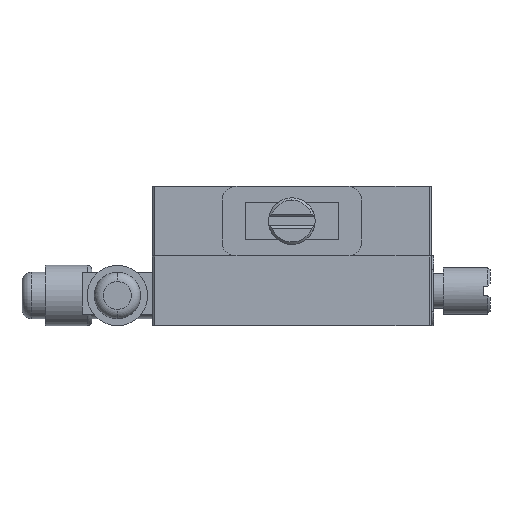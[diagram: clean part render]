
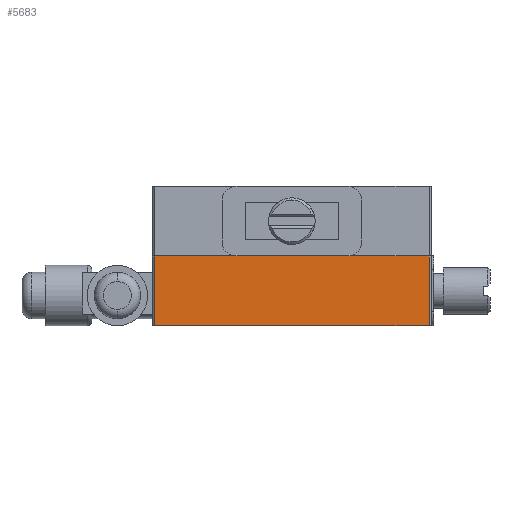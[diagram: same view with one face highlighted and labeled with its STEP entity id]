
A CAD part, front view. The second image highlights one B-rep face of the part: STEP entity #5683.
In plain terms, the highlighted planar face has unit normal (0, -1, 0).
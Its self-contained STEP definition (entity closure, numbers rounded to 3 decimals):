
#127 = ORIENTED_EDGE ( 'NONE', *, *, #6595, .F. ) ;
#427 = ORIENTED_EDGE ( 'NONE', *, *, #4217, .T. ) ;
#608 = VERTEX_POINT ( 'NONE', #6498 ) ;
#716 = LINE ( 'NONE', #3557, #4483 ) ;
#1241 = CARTESIAN_POINT ( 'NONE',  ( 29.5, -30., -7.5 ) ) ;
#1419 = DIRECTION ( 'NONE',  ( 0., 0., -1. ) ) ;
#1455 = VECTOR ( 'NONE', #4693, 1000. ) ;
#1559 = VECTOR ( 'NONE', #1419, 1000. ) ;
#1878 = CARTESIAN_POINT ( 'NONE',  ( 30., -30., -7.5 ) ) ;
#2027 = VERTEX_POINT ( 'NONE', #2710 ) ;
#2130 = EDGE_LOOP ( 'NONE', ( #127, #6486, #6069, #427 ) ) ;
#2234 = AXIS2_PLACEMENT_3D ( 'NONE', #5992, #3046, #7041 ) ;
#2452 = EDGE_CURVE ( 'NONE', #608, #2027, #3977, .T. ) ;
#2595 = LINE ( 'NONE', #4754, #5280 ) ;
#2710 = CARTESIAN_POINT ( 'NONE',  ( -29.5, -30., -7.5 ) ) ;
#3046 = DIRECTION ( 'NONE',  ( 0., 1., 0. ) ) ;
#3229 = DIRECTION ( 'NONE',  ( 1., 0., 0. ) ) ;
#3492 = VERTEX_POINT ( 'NONE', #1241 ) ;
#3557 = CARTESIAN_POINT ( 'NONE',  ( 29.5, -30., 7.5 ) ) ;
#3649 = CARTESIAN_POINT ( 'NONE',  ( 29.5, -30., 7.5 ) ) ;
#3945 = FACE_OUTER_BOUND ( 'NONE', #2130, .T. ) ;
#3977 = LINE ( 'NONE', #7060, #1559 ) ;
#4041 = LINE ( 'NONE', #1878, #1455 ) ;
#4217 = EDGE_CURVE ( 'NONE', #3492, #6522, #716, .T. ) ;
#4483 = VECTOR ( 'NONE', #5912, 1000. ) ;
#4693 = DIRECTION ( 'NONE',  ( 1., 0., 0. ) ) ;
#4754 = CARTESIAN_POINT ( 'NONE',  ( 30., -30., 7.5 ) ) ;
#5057 = EDGE_CURVE ( 'NONE', #2027, #3492, #4041, .T. ) ;
#5280 = VECTOR ( 'NONE', #3229, 1000. ) ;
#5683 = ADVANCED_FACE ( 'NONE', ( #3945 ), #6467, .F. ) ;
#5912 = DIRECTION ( 'NONE',  ( 0., 0., 1. ) ) ;
#5992 = CARTESIAN_POINT ( 'NONE',  ( 30., -30., 7.5 ) ) ;
#6069 = ORIENTED_EDGE ( 'NONE', *, *, #5057, .T. ) ;
#6467 = PLANE ( 'NONE',  #2234 ) ;
#6486 = ORIENTED_EDGE ( 'NONE', *, *, #2452, .T. ) ;
#6498 = CARTESIAN_POINT ( 'NONE',  ( -29.5, -30., 7.5 ) ) ;
#6522 = VERTEX_POINT ( 'NONE', #3649 ) ;
#6595 = EDGE_CURVE ( 'NONE', #608, #6522, #2595, .T. ) ;
#7041 = DIRECTION ( 'NONE',  ( -1., 0., 0. ) ) ;
#7060 = CARTESIAN_POINT ( 'NONE',  ( -29.5, -30., 7.5 ) ) ;
